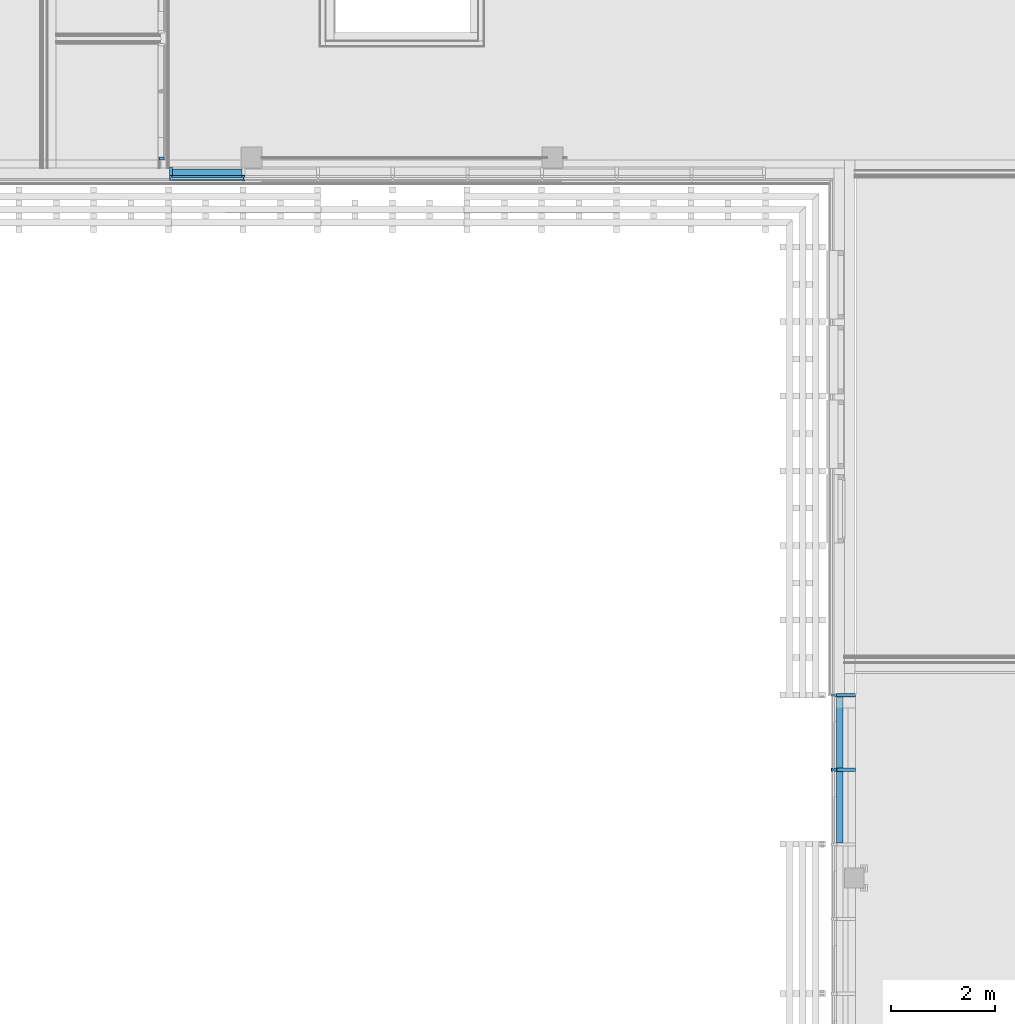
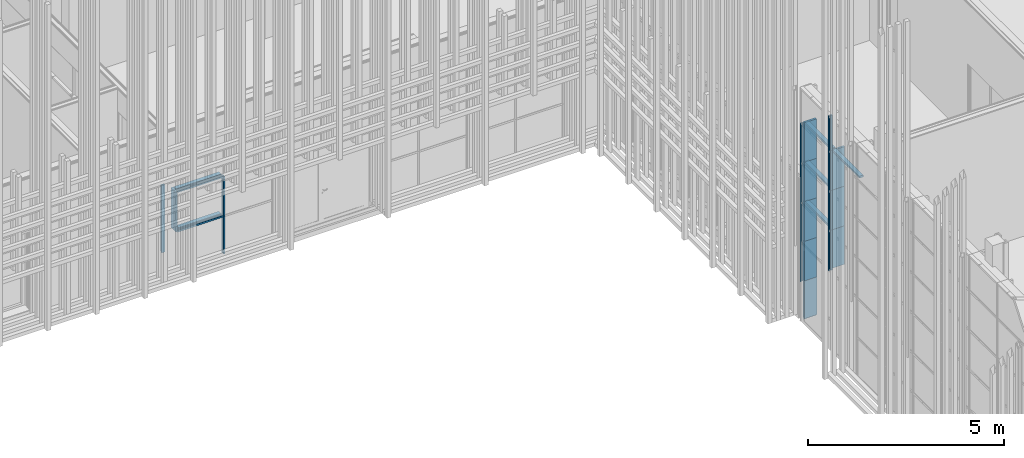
# One storey, part 24 of 260: 34 members, 5 elements without a shape of their own.
"""IFC2X3 building model written with IfcOpenShell, lengths in millimetres."""

from ifc_helpers import new_model, entity, si_unit, converted_unit, derived_unit, money_unit, direction, frame, origin_with_axes, place, context, subcontext, project, spatial, faceted_brep, source, transform, mapped, material, type_object, element, aggregate, save


model = new_model("IFC2X3")

# Units and contexts
model_context = context("Model", 3, precision=0.01, world=origin_with_axes(), true_north=direction((0.0, 1.0)))
body_context = subcontext(model_context, "Body", "Model", "MODEL_VIEW")
ifc_project = project(units=[si_unit("LENGTHUNIT", "METRE", prefix="MILLI"), si_unit("AREAUNIT", "SQUARE_METRE"), si_unit("VOLUMEUNIT", "CUBIC_METRE"), converted_unit("PLANEANGLEUNIT", "DEGREE", entity("IfcPlaneAngleMeasure", 0.0174532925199), si_unit("PLANEANGLEUNIT", "RADIAN"), dimensions=[0, 0, 0, 0, 0, 0, 0]), money_unit("EUR"), converted_unit("TIMEUNIT", "Year", entity("IfcTimeMeasure", 31556926.0), si_unit("TIMEUNIT", "SECOND"), dimensions=[0, 0, 1, 0, 0, 0, 0]), si_unit("MASSUNIT", "GRAM", prefix="KILO"), si_unit("THERMODYNAMICTEMPERATUREUNIT", "DEGREE_CELSIUS"), si_unit("LUMINOUSINTENSITYUNIT", "LUMEN"), si_unit("ENERGYUNIT", "JOULE", prefix="MEGA"), derived_unit("THERMALCONDUCTANCEUNIT", [(si_unit("POWERUNIT", "WATT"), 1), (si_unit("LENGTHUNIT", "METRE"), -1), (si_unit("THERMODYNAMICTEMPERATUREUNIT", "KELVIN"), -1)]), derived_unit("SPECIFICHEATCAPACITYUNIT", [(si_unit("ENERGYUNIT", "JOULE"), 1), (si_unit("MASSUNIT", "GRAM", prefix="KILO"), -1), (si_unit("THERMODYNAMICTEMPERATUREUNIT", "KELVIN"), -1)]), derived_unit("MASSDENSITYUNIT", [(si_unit("MASSUNIT", "GRAM", prefix="KILO"), 1), (si_unit("VOLUMEUNIT", "CUBIC_METRE"), -1)])], contexts=[model_context])

# Site, building, storey
site_placement = place(None, origin_with_axes())
site = spatial("IfcSite", under=ifc_project, at=site_placement, Name="Kolde pst 67a", CompositionType="ELEMENT")
building_placement = place(site_placement, origin_with_axes())
building = spatial("IfcBuilding", under=site, at=building_placement, Name="Riigigümnaasium", CompositionType="ELEMENT")
storey_placement = place(building_placement, origin_with_axes())
storey = spatial("IfcBuildingStorey", under=building, at=storey_placement, Name="1. korrus", CompositionType="ELEMENT", Elevation=0.0)

# Curtain wall, members
curtain_wall_type = type_object("IfcCurtainWallType", Name="Curtain Wall Type", PredefinedType="NOTDEFINED")
curtain_wall_1_placement = place(storey_placement, frame((47829.9854655, 8727.77020058, -0.000749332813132), z_axis=(0.0, 0.0, 1.0), x_axis=(1.0, 0.0, 0.0)))
curtain_wall_1 = element("IfcCurtainWall", 1, at=curtain_wall_1_placement, inside=storey, type_object=curtain_wall_type, Name="KLAASFASSAAD")
ifc_material_1 = material(Name="_METALL - alumiinium")
member_type_1 = type_object("IfcMemberType", Name="Mullion Frame 50 x 100", PredefinedType="MEMBER")
shared_shape_1 = source(origin_with_axes(), body_context, "Body", "Brep", [
    faceted_brep([(5.0, -16.5, 1230.0), (5.0, 16.5, 1230.0), (25.0, 16.5, 1230.0), (25.0, 40.0, 1230.0), (-25.0, 40.0, 1230.0), (-25.0, 16.5, 1230.0), (-5.0, 16.5, 1230.0), (-5.0, -16.5, 1230.0), (-25.0, -16.5, 1230.0), (-25.0, -60.0, 1230.0), (25.0, -60.0, 1230.0), (25.0, -16.5, 1230.0), (5.0, -16.5, 0.0), (5.0, 16.5, 0.0), (25.0, 16.5, 0.0), (25.0, 40.0, 0.0), (-25.0, 40.0, 0.0), (-25.0, 16.5, 0.0), (-5.0, 16.5, 0.0), (-5.0, -16.5, 0.0), (-25.0, -16.5, 0.0), (-25.0, -60.0, 0.0), (25.0, -60.0, 0.0), (25.0, -16.5, 0.0)], [[[0, 1, 2, 3, 4, 5, 6, 7, 8, 9, 10, 11]], [[0, 12, 13, 1]], [[1, 13, 14, 2]], [[14, 15, 3, 2]], [[3, 15, 16, 4]], [[17, 5, 4, 16]], [[5, 17, 18, 6]], [[7, 6, 18, 19]], [[8, 7, 19, 20]], [[8, 20, 21, 9]], [[9, 21, 22, 10]], [[11, 10, 22, 23]], [[11, 23, 12, 0]], [[13, 12, 23, 22, 21, 20, 19, 18, 17, 16, 15, 14]]]),
])
member_1_placement = place(curtain_wall_1_placement, frame((-23999.8871451, 27787.2742207, 4920.00074933), z_axis=(0.0, -4.39957086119e-09, 1.0), x_axis=(-7.6476848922e-06, -0.999999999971, -4.39957086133e-09)))
member_1 = element("IfcMember", 2, at=member_1_placement, type_object=member_type_1, material=ifc_material_1, Name="RF RAAM VERT-624", ObjectType="MEMBER", context=body_context, shape_type="MappedRepresentation", body=[
    mapped(shared_shape_1, transform((0.0, 0.0, 0.0), x_axis=(-1.0, 0.0, -4.39957086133e-09), y_axis=(0.0, -1.0, 0.0), z_axis=(-4.39957086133e-09, 0.0, 1.0))),
])
member_2_placement = place(curtain_wall_1_placement, frame((-23999.8871451, 27787.2742207, 3690.00074933), z_axis=(0.0, 0.0, 1.0), x_axis=(-7.6476848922e-06, -0.999999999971, 0.0)))
member_2 = element("IfcMember", 3, at=member_2_placement, type_object=member_type_1, material=ifc_material_1, Name="RF RAAM VERT-625", ObjectType="MEMBER", context=body_context, shape_type="MappedRepresentation", body=[
    mapped(shared_shape_1, transform((0.0, 0.0, 0.0), x_axis=(-1.0, 0.0, 0.0), y_axis=(0.0, -1.0, 0.0), z_axis=(0.0, 0.0, 1.0))),
])
shared_shape_2 = source(origin_with_axes(), body_context, "Body", "Brep", [
    faceted_brep([(5.0, -16.5, 1230.0), (5.0, 16.5, 1230.0), (25.0, 16.5, 1230.0), (25.0, 40.0, 1230.0), (-25.0, 40.0, 1230.0), (-25.0, 16.5, 1230.0), (-5.0, 16.5, 1230.0), (-5.0, -16.5, 1230.0), (-25.0, -16.5, 1230.0), (-25.0, -60.0, 1230.0), (25.0, -60.0, 1230.0), (25.0, -16.5, 1230.0), (5.0, -16.5, -25.0), (5.0, 16.5, -25.0), (25.0, 16.5, -25.0), (25.0, 40.0, -25.0), (-25.0, 40.0, -25.0), (-25.0, 16.5, -25.0), (-5.0, 16.5, -25.0), (-5.0, -16.5, -25.0), (-25.0, -16.5, -25.0), (-25.0, -60.0, -25.0), (25.0, -60.0, -25.0), (25.0, -16.5, -25.0)], [[[0, 1, 2, 3, 4, 5, 6, 7, 8, 9, 10, 11]], [[0, 12, 13, 1]], [[1, 13, 14, 2]], [[14, 15, 3, 2]], [[3, 15, 16, 4]], [[17, 5, 4, 16]], [[5, 17, 18, 6]], [[7, 6, 18, 19]], [[8, 7, 19, 20]], [[8, 20, 21, 9]], [[9, 21, 22, 10]], [[11, 10, 22, 23]], [[11, 23, 12, 0]], [[13, 12, 23, 22, 21, 20, 19, 18, 17, 16, 15, 14]]]),
])
member_3_placement = place(curtain_wall_1_placement, frame((-23999.8871451, 27787.2742207, 2460.00074933), z_axis=(0.0, 0.0, 1.0), x_axis=(-7.6476848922e-06, -0.999999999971, 0.0)))
member_3 = element("IfcMember", 4, at=member_3_placement, type_object=member_type_1, material=ifc_material_1, Name="RF RAAM VERT-626", ObjectType="MEMBER", context=body_context, shape_type="MappedRepresentation", body=[
    mapped(shared_shape_2, transform((0.0, 0.0, 0.0), x_axis=(-1.0, 0.0, 0.0), y_axis=(0.0, -1.0, 0.0), z_axis=(0.0, 0.0, 1.0))),
])
member_type_2 = type_object("IfcMemberType", Name="Boundary Frame 50 x 100", PredefinedType="MEMBER")
shared_shape_3 = source(origin_with_axes(), body_context, "Body", "Brep", [
    faceted_brep([(-30.0, -16.5, 1230.0), (-50.0, -16.5, 1230.0), (-50.0, -60.0, 1230.0), (0.0, -60.0, 1230.0), (0.0, 40.0, 1230.0), (-50.0, 40.0, 1230.0), (-50.0, 16.5, 1230.0), (-30.0, 16.5, 1230.0), (-30.0, -16.5, 0.0), (-50.0, -16.5, 0.0), (-50.0, -60.0, 0.0), (0.0, -60.0, 0.0), (0.0, 40.0, 0.0), (-50.0, 40.0, 0.0), (-50.0, 16.5, 0.0), (-30.0, 16.5, 0.0)], [[[0, 1, 2, 3, 4, 5, 6, 7]], [[0, 8, 9, 1]], [[9, 10, 2, 1]], [[10, 11, 3, 2]], [[11, 12, 4, 3]], [[12, 13, 5, 4]], [[6, 5, 13, 14]], [[14, 15, 7, 6]], [[7, 15, 8, 0]], [[8, 15, 14, 13, 12, 11, 10, 9]]]),
])
member_4_placement = place(curtain_wall_1_placement, frame((-23999.8760143, 29242.7279165, 4920.00074933), z_axis=(0.0, 0.0, 1.0), x_axis=(-7.64768489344e-06, -0.999999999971, 0.0)))
member_4 = element("IfcMember", 5, at=member_4_placement, type_object=member_type_2, material=ifc_material_1, Name="RF RAAM SERV-650", ObjectType="MEMBER", context=body_context, shape_type="MappedRepresentation", body=[
    mapped(shared_shape_3, transform((0.0, 0.0, 0.0), x_axis=(-1.0, 0.0, 0.0), y_axis=(0.0, -1.0, 0.0), z_axis=(0.0, 0.0, 1.0))),
])
member_5_placement = place(curtain_wall_1_placement, frame((-23999.8760143, 29242.7279165, 3690.00074933), z_axis=(0.0, 0.0, 1.0), x_axis=(-7.64768489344e-06, -0.999999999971, 0.0)))
member_5 = element("IfcMember", 6, at=member_5_placement, type_object=member_type_2, material=ifc_material_1, Name="RF RAAM SERV-649", ObjectType="MEMBER", context=body_context, shape_type="MappedRepresentation", body=[
    mapped(shared_shape_3, transform((0.0, 0.0, 0.0), x_axis=(-1.0, 0.0, 0.0), y_axis=(0.0, -1.0, 0.0), z_axis=(0.0, 0.0, 1.0))),
])
member_6_placement = place(curtain_wall_1_placement, frame((-23999.8760143, 29242.7279165, 2460.00074933), z_axis=(0.0, 0.0, 1.0), x_axis=(-7.64768489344e-06, -0.999999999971, 0.0)))
member_6 = element("IfcMember", 7, at=member_6_placement, type_object=member_type_2, material=ifc_material_1, Name="RF RAAM SERV-648", ObjectType="MEMBER", context=body_context, shape_type="MappedRepresentation", body=[
    mapped(shared_shape_3, transform((0.0, 0.0, 0.0), x_axis=(-1.0, 0.0, 0.0), y_axis=(0.0, -1.0, 0.0), z_axis=(0.0, 0.0, 1.0))),
])
member_7_placement = place(curtain_wall_1_placement, frame((-23999.8760143, 29242.7279165, 1230.00074933), z_axis=(0.0, 0.0, 1.0), x_axis=(-7.64768489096e-06, -0.999999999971, 0.0)))
member_7 = element("IfcMember", 8, at=member_7_placement, type_object=member_type_2, material=ifc_material_1, Name="RF RAAM SERV-647", ObjectType="MEMBER", context=body_context, shape_type="MappedRepresentation", body=[
    mapped(shared_shape_3, transform((0.0, 0.0, 0.0), x_axis=(-1.0, 0.0, 0.0), y_axis=(0.0, -1.0, 0.0), z_axis=(0.0, 0.0, 1.0))),
])
shared_shape_4 = source(origin_with_axes(), body_context, "Body", "Brep", [
    faceted_brep([(5.0, -16.5, 1099.99900713), (5.0, 16.5, 1099.99900713), (25.0, 16.5, 1099.99900713), (25.0, 40.0, 1099.99900713), (-25.0, 40.0, 1099.99900713), (-25.0, 16.5, 1099.99900713), (-5.0, 16.5, 1099.99900713), (-5.0, -16.5, 1099.99900713), (-25.0, -16.5, 1099.99900713), (-25.0, -60.0, 1099.99900713), (25.0, -60.0, 1099.99900713), (25.0, -16.5, 1099.99900713), (5.0, -16.5, -4.55870452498e-07), (5.0, 16.5, -4.55870452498e-07), (25.0, 16.5, -4.55870452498e-07), (25.0, 40.0, -4.55870452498e-07), (-25.0, 40.0, -4.55870452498e-07), (-25.0, 16.5, -4.55870452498e-07), (-5.0, 16.5, -4.55870452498e-07), (-5.0, -16.5, -4.55870452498e-07), (-25.0, -16.5, -4.55870452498e-07), (-25.0, -60.0, -4.55870452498e-07), (25.0, -60.0, -4.55870452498e-07), (25.0, -16.5, -4.55870452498e-07)], [[[0, 1, 2, 3, 4, 5, 6, 7, 8, 9, 10, 11]], [[0, 12, 13, 1]], [[1, 13, 14, 2]], [[14, 15, 3, 2]], [[3, 15, 16, 4]], [[17, 5, 4, 16]], [[5, 17, 18, 6]], [[7, 6, 18, 19]], [[8, 7, 19, 20]], [[8, 20, 21, 9]], [[9, 21, 22, 10]], [[11, 10, 22, 23]], [[11, 23, 12, 0]], [[13, 12, 23, 22, 21, 20, 19, 18, 17, 16, 15, 14]]]),
])
member_8_placement = place(curtain_wall_1_placement, frame((-23999.8871451, 27787.2742153, 6150.00074933), z_axis=(0.0, 0.0, 1.0), x_axis=(-7.6476848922e-06, -0.999999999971, 0.0)))
member_8 = element("IfcMember", 9, at=member_8_placement, type_object=member_type_1, material=ifc_material_1, Name="RF RAAM VERT-117", ObjectType="MEMBER", context=body_context, shape_type="MappedRepresentation", body=[
    mapped(shared_shape_4, transform((0.0, 0.0, 0.0), x_axis=(-1.0, 0.0, 0.0), y_axis=(0.0, -1.0, 0.0), z_axis=(0.0, 0.0, 1.0))),
])
aggregate(curtain_wall_1, [member_1, member_2, member_3, member_8, member_4, member_5, member_6, member_7])

curtain_wall_2_placement = place(storey_placement, frame((20393.1746439, 47839.7660528, -0.000116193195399), z_axis=(0.0, 0.0, 1.0), x_axis=(1.0, 0.0, 0.0)))
curtain_wall_2 = element("IfcCurtainWall", 10, at=curtain_wall_2_placement, inside=storey, type_object=curtain_wall_type, Name="KLAASFASSAAD")
shared_shape_5 = source(origin_with_axes(), body_context, "Body", "Brep", [
    faceted_brep([(5.0, -24.0, 1230.00011619), (5.0, 24.0, 1230.00011619), (25.0, 24.0, 1230.00011619), (25.0, 40.0, 1230.00011619), (-25.0, 40.0, 1230.00011619), (-25.0, 24.0, 1230.00011619), (-5.0, 24.0, 1230.00011619), (-5.0, -24.0, 1230.00011619), (-25.0, -24.0, 1230.00011619), (-25.0, -60.0, 1230.00011619), (25.0, -60.0, 1230.00011619), (25.0, -24.0, 1230.00011619), (5.0, -24.0, 50.0), (5.0, 24.0, 50.0), (25.0, 24.0, 50.0), (25.0, 40.0, 50.0), (-25.0, 40.0, 50.0), (-25.0, 24.0, 50.0), (-5.0, 24.0, 50.0), (-5.0, -24.0, 50.0), (-25.0, -24.0, 50.0), (-25.0, -60.0, 50.0), (25.0, -60.0, 50.0), (25.0, -24.0, 50.0)], [[[0, 1, 2, 3, 4, 5, 6, 7, 8, 9, 10, 11]], [[0, 12, 13, 1]], [[1, 13, 14, 2]], [[14, 15, 3, 2]], [[4, 3, 15, 16]], [[17, 5, 4, 16]], [[5, 17, 18, 6]], [[7, 6, 18, 19]], [[8, 7, 19, 20]], [[8, 20, 21, 9]], [[10, 9, 21, 22]], [[11, 10, 22, 23]], [[11, 23, 12, 0]], [[13, 12, 23, 22, 21, 20, 19, 18, 17, 16, 15, 14]]]),
])
member_9_placement = place(curtain_wall_2_placement, frame((-7865.0, 0.0, 0.0), z_axis=(0.0, 0.0, 1.0), x_axis=(1.0, 0.0, 0.0)))
member_9 = element("IfcMember", 11, at=member_9_placement, type_object=member_type_1, material=ifc_material_1, Name="RF RAAM VERT-351", ObjectType="MEMBER", context=body_context, shape_type="MappedRepresentation", body=[
    mapped(shared_shape_5, transform((0.0, 0.0, 0.0), x_axis=(-1.0, 0.0, 0.0), y_axis=(0.0, -1.0, 0.0), z_axis=(0.0, 0.0, 1.0))),
])
shared_shape_6 = source(origin_with_axes(), body_context, "Body", "Brep", [
    faceted_brep([(5.0, -24.0, 1230.0), (5.0, 24.0, 1230.0), (25.0, 24.0, 1230.0), (25.0, 40.0, 1230.0), (-25.0, 40.0, 1230.0), (-25.0, 24.0, 1230.0), (-5.0, 24.0, 1230.0), (-5.0, -24.0, 1230.0), (-25.0, -24.0, 1230.0), (-25.0, -60.0, 1230.0), (25.0, -60.0, 1230.0), (25.0, -24.0, 1230.0), (5.0, -24.0, 0.0), (5.0, 24.0, 0.0), (25.0, 24.0, 0.0), (25.0, 40.0, 0.0), (-25.0, 40.0, 0.0), (-25.0, 24.0, 0.0), (-5.0, 24.0, 0.0), (-5.0, -24.0, 0.0), (-25.0, -24.0, 0.0), (-25.0, -60.0, 0.0), (25.0, -60.0, 0.0), (25.0, -24.0, 0.0)], [[[0, 1, 2, 3, 4, 5, 6, 7, 8, 9, 10, 11]], [[0, 12, 13, 1]], [[1, 13, 14, 2]], [[14, 15, 3, 2]], [[3, 15, 16, 4]], [[17, 5, 4, 16]], [[5, 17, 18, 6]], [[7, 6, 18, 19]], [[8, 7, 19, 20]], [[8, 20, 21, 9]], [[9, 21, 22, 10]], [[11, 10, 22, 23]], [[11, 23, 12, 0]], [[13, 12, 23, 22, 21, 20, 19, 18, 17, 16, 15, 14]]]),
])
member_10_placement = place(curtain_wall_2_placement, frame((-7865.0, 0.0, 1230.00011619), z_axis=(0.0, 0.0, 1.0), x_axis=(1.0, 0.0, 0.0)))
member_10 = element("IfcMember", 12, at=member_10_placement, type_object=member_type_1, material=ifc_material_1, Name="RF RAAM VERT-359", ObjectType="MEMBER", context=body_context, shape_type="MappedRepresentation", body=[
    mapped(shared_shape_6, transform((0.0, 0.0, 0.0), x_axis=(-1.0, 0.0, 0.0), y_axis=(0.0, -1.0, 0.0), z_axis=(0.0, 0.0, 1.0))),
])
shared_shape_7 = source(origin_with_axes(), body_context, "Body", "Brep", [
    faceted_brep([(-30.0, -24.0, 1230.0), (-50.0, -24.0, 1230.0), (-50.0, -60.0, 1230.0), (0.0, -60.0, 1230.0), (0.0, 40.0, 1230.0), (-50.0, 40.0, 1230.0), (-50.0, 24.0, 1230.0), (-30.0, 24.0, 1230.0), (-30.0, -24.0, -2.17989071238e-06), (-50.0, -24.0, -2.17989060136e-06), (-50.0, -60.0, -2.17989060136e-06), (0.0, -60.0, -2.17989060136e-06), (0.0, 40.0, -2.17989060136e-06), (-50.0, 40.0, -2.17989060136e-06), (-50.0, 24.0, -2.17989060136e-06), (-30.0, 24.0, -2.17989071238e-06)], [[[0, 1, 2, 3, 4, 5, 6, 7]], [[0, 8, 9, 1]], [[9, 10, 2, 1]], [[10, 11, 3, 2]], [[11, 12, 4, 3]], [[12, 13, 5, 4]], [[6, 5, 13, 14]], [[14, 15, 7, 6]], [[7, 15, 8, 0]], [[8, 15, 14, 13, 12, 11, 10, 9]]]),
])
member_11_placement = place(curtain_wall_2_placement, frame((-9284.79434148, 0.0, 1230.00011619), z_axis=(0.0, 0.0, 1.0), x_axis=(1.0, 0.0, 0.0)))
member_11 = element("IfcMember", 13, at=member_11_placement, type_object=member_type_2, material=ifc_material_1, Name="RF RAAM SERV-710", ObjectType="MEMBER", context=body_context, shape_type="MappedRepresentation", body=[
    mapped(shared_shape_7, transform((0.0, 0.0, 0.0), x_axis=(-1.0, 0.0, 0.0), y_axis=(0.0, -1.0, 0.0), z_axis=(0.0, 0.0, 1.0))),
])
member_type_3 = type_object("IfcMemberType", Name="Transom Frame 50 x 100", PredefinedType="MEMBER")
shared_shape_8 = source(origin_with_axes(), body_context, "Body", "Brep", [
    faceted_brep([(5.0, -24.0, 1369.79434148), (5.0, 24.0, 1369.79434148), (25.0, 24.0, 1369.79434148), (25.0, 40.0, 1369.79434148), (-25.0, 40.0, 1369.79434148), (-25.0, 24.0, 1369.79434148), (-5.0, 24.0, 1369.79434148), (-5.0, -24.0, 1369.79434148), (-25.0, -24.0, 1369.79434148), (-25.0, -60.0, 1369.79434148), (25.0, -60.0, 1369.79434148), (25.0, -24.0, 1369.79434148), (5.0, -24.0, 25.0), (5.0, 24.0, 25.0), (25.0, 24.0, 25.0), (25.0, 40.0, 25.0), (-25.0, 40.0, 25.0), (-25.0, 24.0, 25.0), (-5.0, 24.0, 25.0), (-5.0, -24.0, 25.0), (-25.0, -24.0, 25.0), (-25.0, -60.0, 25.0), (25.0, -60.0, 25.0), (25.0, -24.0, 25.0)], [[[0, 1, 2, 3, 4, 5, 6, 7, 8, 9, 10, 11]], [[0, 12, 13, 1]], [[1, 13, 14, 2]], [[14, 15, 3, 2]], [[4, 3, 15, 16]], [[17, 5, 4, 16]], [[5, 17, 18, 6]], [[7, 6, 18, 19]], [[8, 7, 19, 20]], [[8, 20, 21, 9]], [[10, 9, 21, 22]], [[11, 10, 22, 23]], [[11, 23, 12, 0]], [[13, 12, 23, 22, 21, 20, 19, 18, 17, 16, 15, 14]]]),
])
member_12_placement = place(curtain_wall_2_placement, frame((-7865.0, 0.0, 2460.00011619), z_axis=(-1.0, 0.0, 0.0), x_axis=(0.0, 0.0, 1.0)))
member_12 = element("IfcMember", 14, at=member_12_placement, type_object=member_type_3, material=ifc_material_1, Name="RF RAAM HOR-329", ObjectType="MEMBER", context=body_context, shape_type="MappedRepresentation", body=[
    mapped(shared_shape_8, transform((0.0, 0.0, 0.0), x_axis=(-1.0, 0.0, 0.0), y_axis=(0.0, -1.0, 0.0), z_axis=(0.0, 0.0, 1.0))),
])
member_13_placement = place(curtain_wall_2_placement, frame((-7865.0, 0.0, 1230.00011619), z_axis=(-1.0, 0.0, 0.0), x_axis=(0.0, 0.0, 1.0)))
member_13 = element("IfcMember", 15, at=member_13_placement, type_object=member_type_3, material=ifc_material_1, Name="RF RAAM HOR-330", ObjectType="MEMBER", context=body_context, shape_type="MappedRepresentation", body=[
    mapped(shared_shape_8, transform((0.0, 0.0, 0.0), x_axis=(-1.0, 0.0, 0.0), y_axis=(0.0, -1.0, 0.0), z_axis=(0.0, 0.0, 1.0))),
])
aggregate(curtain_wall_2, [member_9, member_10, member_12, member_11, member_13])

curtain_wall_3_placement = place(storey_placement, frame((23890.0026791, 27220.1832522, -0.000253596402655), z_axis=(0.0, 0.0, 1.0), x_axis=(1.0, 0.0, 0.0)))
curtain_wall_3 = element("IfcCurtainWall", 16, at=curtain_wall_3_placement, inside=storey, type_object=curtain_wall_type, Name="Klaasfassaadi puitkarkass")
ifc_material_2 = material(Name="_KANDETARIND - liimpuit vastavalt EK osale")
member_type_4 = type_object("IfcMemberType", Name="Transom Frame 60 x 120", PredefinedType="MEMBER")
shared_shape_9 = source(origin_with_axes(), body_context, "Body", "Brep", [
    faceted_brep([(-30.0, 0.0, 30.0), (-30.0, -120.0, 30.0), (-30.0, -120.0, 1400.0), (-30.0, 0.0, 1400.0), (30.0, 0.0, 30.0), (30.0, -120.0, 30.0), (30.0, -120.0, 1400.0), (30.0, 0.0, 1400.0)], [[[0, 1, 2, 3]], [[1, 0, 4, 5]], [[1, 5, 6, 2]], [[2, 6, 7, 3]], [[4, 0, 3, 7]], [[5, 4, 7, 6]]]),
])
member_14_placement = place(curtain_wall_3_placement, frame((4.03153244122e-05, 7865.0, 6150.0002536), z_axis=(5.12591740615e-09, 1.0, 0.0), x_axis=(0.0, 0.0, 1.0)))
member_14 = element("IfcMember", 17, at=member_14_placement, type_object=member_type_4, material=ifc_material_2, Name="RF RAAM HOR-648", ObjectType="MEMBER", context=body_context, shape_type="MappedRepresentation", body=[
    mapped(shared_shape_9, transform((0.0, 0.0, 0.0), x_axis=(-1.0, 0.0, 0.0), y_axis=(0.0, -1.0, -5.12591728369e-09), z_axis=(0.0, -5.12591728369e-09, 1.0))),
])
member_15_placement = place(curtain_wall_3_placement, frame((4.7645386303e-05, 9295.0, 6150.0002536), z_axis=(5.12591492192e-09, 1.0, 0.0), x_axis=(0.0, 0.0, 1.0)))
member_15 = element("IfcMember", 18, at=member_15_placement, type_object=member_type_4, material=ifc_material_2, Name="RF RAAM HOR-783", ObjectType="MEMBER", context=body_context, shape_type="MappedRepresentation", body=[
    mapped(shared_shape_9, transform((0.0, 0.0, 0.0), x_axis=(-1.0, 0.0, 0.0), y_axis=(0.0, -1.0, -5.12591479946e-09), z_axis=(0.0, -5.12591479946e-09, 1.0))),
])
member_16_placement = place(curtain_wall_3_placement, frame((4.7645386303e-05, 9295.0, 4920.0002536), z_axis=(5.12591492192e-09, 1.0, 0.0), x_axis=(0.0, 0.0, 1.0)))
member_16 = element("IfcMember", 19, at=member_16_placement, type_object=member_type_4, material=ifc_material_2, Name="RF RAAM HOR-784", ObjectType="MEMBER", context=body_context, shape_type="MappedRepresentation", body=[
    mapped(shared_shape_9, transform((0.0, 0.0, 0.0), x_axis=(-1.0, 0.0, 0.0), y_axis=(0.0, -1.0, -5.12591479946e-09), z_axis=(0.0, -5.12591479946e-09, 1.0))),
])
member_17_placement = place(curtain_wall_3_placement, frame((4.7645386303e-05, 9295.0, 3690.0002536), z_axis=(5.12591492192e-09, 1.0, 0.0), x_axis=(0.0, 0.0, 1.0)))
member_17 = element("IfcMember", 20, at=member_17_placement, type_object=member_type_4, material=ifc_material_2, Name="RF RAAM HOR-835", ObjectType="MEMBER", context=body_context, shape_type="MappedRepresentation", body=[
    mapped(shared_shape_9, transform((0.0, 0.0, 0.0), x_axis=(-1.0, 0.0, 0.0), y_axis=(0.0, -1.0, -5.12591479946e-09), z_axis=(0.0, -5.12591479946e-09, 1.0))),
])

curtain_wall_4_placement = place(storey_placement, frame((20393.1747334, 47899.7660528, -0.000116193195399), z_axis=(0.0, 0.0, 1.0), x_axis=(1.0, 0.0, 0.0)))
curtain_wall_4 = element("IfcCurtainWall", 21, at=curtain_wall_4_placement, inside=storey, type_object=curtain_wall_type, Name="Klaasfassaadi puitkarkass")
member_type_5 = type_object("IfcMemberType", Name="Boundary Frame 60 x 160", PredefinedType="MEMBER")
shared_shape_10 = source(origin_with_axes(), body_context, "Body", "Brep", [
    faceted_brep([(-60.0, -160.0, -2.61586866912e-06), (-60.0, -160.0, 1230.0), (-60.0, 0.0, 1230.0), (-60.0, 0.0, -2.61586866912e-06), (0.0, -160.0, -2.61586866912e-06), (0.0, -160.0, 1230.0), (0.0, 0.0, 1230.0), (0.0, 0.0, -2.61586866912e-06)], [[[0, 1, 2, 3]], [[4, 5, 1, 0]], [[1, 5, 6, 2]], [[3, 2, 6, 7]], [[0, 3, 7, 4]], [[7, 6, 5, 4]]]),
])
member_18_placement = place(curtain_wall_4_placement, frame((-9284.79434148, 0.0, 1230.00011619), z_axis=(0.0, 0.0, 1.0), x_axis=(1.0, 0.0, 0.0)))
member_18 = element("IfcMember", 22, at=member_18_placement, type_object=member_type_5, material=ifc_material_2, Name="RF RAAM SERV-623", ObjectType="MEMBER", context=body_context, shape_type="MappedRepresentation", body=[
    mapped(shared_shape_10, transform((0.0, 0.0, 0.0), x_axis=(-1.0, 0.0, 0.0), y_axis=(0.0, -1.0, 0.0), z_axis=(0.0, 0.0, 1.0))),
])
shared_shape_11 = source(origin_with_axes(), body_context, "Body", "Brep", [
    faceted_brep([(-30.0, 0.0, 30.0), (-30.0, -120.0, 30.0), (-30.0, -120.0, 1359.79434148), (-30.0, 0.0, 1359.79434148), (30.0, 0.0, 30.0), (30.0, -120.0, 30.0), (30.0, -120.0, 1359.79434148), (30.0, 0.0, 1359.79434148)], [[[0, 1, 2, 3]], [[1, 0, 4, 5]], [[1, 5, 6, 2]], [[2, 6, 7, 3]], [[4, 0, 3, 7]], [[5, 4, 7, 6]]]),
])
member_19_placement = place(curtain_wall_4_placement, frame((-7865.0, 0.0, 2460.00011619), z_axis=(-1.0, 0.0, 0.0), x_axis=(0.0, 0.0, 1.0)))
member_19 = element("IfcMember", 23, at=member_19_placement, type_object=member_type_4, material=ifc_material_2, Name="RF RAAM HOR-329", ObjectType="MEMBER", context=body_context, shape_type="MappedRepresentation", body=[
    mapped(shared_shape_11, transform((0.0, 0.0, 0.0), x_axis=(-1.0, 0.0, 0.0), y_axis=(0.0, -1.0, 0.0), z_axis=(0.0, 0.0, 1.0))),
])
member_20_placement = place(curtain_wall_4_placement, frame((-7865.0, 0.0, 1230.00011619), z_axis=(-1.0, 0.0, 0.0), x_axis=(0.0, 0.0, 1.0)))
member_20 = element("IfcMember", 24, at=member_20_placement, type_object=member_type_4, material=ifc_material_2, Name="RF RAAM HOR-330", ObjectType="MEMBER", context=body_context, shape_type="MappedRepresentation", body=[
    mapped(shared_shape_11, transform((0.0, 0.0, 0.0), x_axis=(-1.0, 0.0, 0.0), y_axis=(0.0, -1.0, 0.0), z_axis=(0.0, 0.0, 1.0))),
])
aggregate(curtain_wall_4, [member_19, member_18, member_20])

# Member
member_type_6 = type_object("IfcMemberType", Name="Mullion Frame 60 x 360", PredefinedType="MEMBER")
shared_shape_12 = source(origin_with_axes(), body_context, "Body", "Brep", [
    faceted_brep([(-30.0, 0.0, 60.0), (-30.0, -360.0, 60.0), (-30.0, -360.0, 1230.0002536), (-30.0, 0.0, 1230.0002536), (30.0, 0.0, 60.0), (30.0, -360.0, 60.0), (30.0, -360.0, 1230.0002536), (30.0, 0.0, 1230.0002536)], [[[0, 1, 2, 3]], [[1, 0, 4, 5]], [[1, 5, 6, 2]], [[2, 6, 7, 3]], [[4, 0, 3, 7]], [[5, 4, 7, 6]]]),
])
member_21_placement = place(curtain_wall_3_placement, frame((5.49754446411e-05, 10724.9999999, 0.0), z_axis=(0.0, 0.0, 1.0), x_axis=(-5.12591492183e-09, -1.0, 0.0)))
member_21 = element("IfcMember", 25, at=member_21_placement, type_object=member_type_6, material=ifc_material_2, Name="RF RAAM VERT-489", ObjectType="MEMBER", context=body_context, shape_type="MappedRepresentation", body=[
    mapped(shared_shape_12, transform((0.0, 0.0, 0.0), x_axis=(-1.0, 0.0, 0.0), y_axis=(0.0, -1.0, 0.0), z_axis=(0.0, 0.0, 1.0))),
])

shared_shape_13 = source(origin_with_axes(), body_context, "Body", "Brep", [
    faceted_brep([(-30.0, -360.0, 0.0), (-30.0, -360.0, 1230.0), (-30.0, 0.0, 1230.0), (-30.0, 0.0, 0.0), (30.0, -360.0, 0.0), (30.0, -360.0, 1230.0), (30.0, 0.0, 1230.0), (30.0, 0.0, 0.0)], [[[0, 1, 2, 3]], [[4, 5, 1, 0]], [[1, 5, 6, 2]], [[3, 2, 6, 7]], [[0, 3, 7, 4]], [[7, 6, 5, 4]]]),
])
member_22_placement = place(curtain_wall_3_placement, frame((4.7645386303e-05, 9295.0, 3690.0002536), z_axis=(0.0, 0.0, 1.0), x_axis=(-5.12591616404e-09, -1.0, 0.0)))
member_22 = element("IfcMember", 26, at=member_22_placement, type_object=member_type_6, material=ifc_material_2, Name="RF RAAM VERT-837", ObjectType="MEMBER", context=body_context, shape_type="MappedRepresentation", body=[
    mapped(shared_shape_13, transform((0.0, 0.0, 0.0), x_axis=(-1.0, 0.0, 0.0), y_axis=(0.0, -1.0, 0.0), z_axis=(0.0, 0.0, 1.0))),
])

member_23_placement = place(curtain_wall_3_placement, frame((4.7645386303e-05, 9295.0, 4920.0002536), z_axis=(0.0, 0.0, 1.0), x_axis=(-5.12591616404e-09, -1.0, 0.0)))
member_23 = element("IfcMember", 27, at=member_23_placement, type_object=member_type_6, material=ifc_material_2, Name="RF RAAM VERT-837", ObjectType="MEMBER", context=body_context, shape_type="MappedRepresentation", body=[
    mapped(shared_shape_13, transform((0.0, 0.0, 0.0), x_axis=(-1.0, 0.0, 0.0), y_axis=(0.0, -1.0, 0.0), z_axis=(0.0, 0.0, 1.0))),
])

member_24_placement = place(curtain_wall_3_placement, frame((5.49754446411e-05, 10724.9999999, 1230.0002536), z_axis=(0.0, 0.0, 1.0), x_axis=(-5.12591492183e-09, -1.0, 0.0)))
member_24 = element("IfcMember", 28, at=member_24_placement, type_object=member_type_6, material=ifc_material_2, Name="RF RAAM VERT-490", ObjectType="MEMBER", context=body_context, shape_type="MappedRepresentation", body=[
    mapped(shared_shape_13, transform((0.0, 0.0, 0.0), x_axis=(-1.0, 0.0, 0.0), y_axis=(0.0, -1.0, 0.0), z_axis=(0.0, 0.0, 1.0))),
])

member_25_placement = place(curtain_wall_3_placement, frame((5.49754446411e-05, 10724.9999999, 2460.0002536), z_axis=(0.0, 0.0, 1.0), x_axis=(-5.12591492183e-09, -1.0, 0.0)))
member_25 = element("IfcMember", 29, at=member_25_placement, type_object=member_type_6, material=ifc_material_2, Name="RF RAAM VERT-491", ObjectType="MEMBER", context=body_context, shape_type="MappedRepresentation", body=[
    mapped(shared_shape_13, transform((0.0, 0.0, 0.0), x_axis=(-1.0, 0.0, 0.0), y_axis=(0.0, -1.0, 0.0), z_axis=(0.0, 0.0, 1.0))),
])

member_26_placement = place(curtain_wall_3_placement, frame((5.49754446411e-05, 10724.9999999, 3690.0002536), z_axis=(0.0, 0.0, 1.0), x_axis=(-5.12591492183e-09, -1.0, 0.0)))
member_26 = element("IfcMember", 30, at=member_26_placement, type_object=member_type_6, material=ifc_material_2, Name="RF RAAM VERT-492", ObjectType="MEMBER", context=body_context, shape_type="MappedRepresentation", body=[
    mapped(shared_shape_13, transform((0.0, 0.0, 0.0), x_axis=(-1.0, 0.0, 0.0), y_axis=(0.0, -1.0, 0.0), z_axis=(0.0, 0.0, 1.0))),
])

member_27_placement = place(curtain_wall_3_placement, frame((5.49754446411e-05, 10724.9999999, 4920.0002536), z_axis=(0.0, 0.0, 1.0), x_axis=(-5.12591492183e-09, -1.0, 0.0)))
member_27 = element("IfcMember", 31, at=member_27_placement, type_object=member_type_6, material=ifc_material_2, Name="RF RAAM VERT-493", ObjectType="MEMBER", context=body_context, shape_type="MappedRepresentation", body=[
    mapped(shared_shape_13, transform((0.0, 0.0, 0.0), x_axis=(-1.0, 0.0, 0.0), y_axis=(0.0, -1.0, 0.0), z_axis=(0.0, 0.0, 1.0))),
])

shared_shape_14 = source(origin_with_axes(), body_context, "Body", "Brep", [
    faceted_brep([(-30.0, 0.0, 30.0), (-30.0, -360.0, 30.0), (-30.0, -360.0, 1230.0), (-30.0, 0.0, 1230.0), (30.0, 0.0, 30.0), (30.0, -360.0, 30.0), (30.0, -360.0, 1230.0), (30.0, 0.0, 1230.0)], [[[0, 1, 2, 3]], [[1, 0, 4, 5]], [[1, 5, 6, 2]], [[2, 6, 7, 3]], [[4, 0, 3, 7]], [[5, 4, 7, 6]]]),
])
member_28_placement = place(curtain_wall_3_placement, frame((4.7645386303e-05, 9295.0, 2460.0002536), z_axis=(0.0, 0.0, 1.0), x_axis=(-5.12591616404e-09, -1.0, 0.0)))
member_28 = element("IfcMember", 32, at=member_28_placement, type_object=member_type_6, material=ifc_material_2, Name="RF RAAM VERT-837", ObjectType="MEMBER", context=body_context, shape_type="MappedRepresentation", body=[
    mapped(shared_shape_14, transform((0.0, 0.0, 0.0), x_axis=(-1.0, 0.0, 0.0), y_axis=(0.0, -1.0, 0.0), z_axis=(0.0, 0.0, 1.0))),
])

member_type_7 = type_object("IfcMemberType", Name="Boundary Frame 60 x 360", PredefinedType="MEMBER")
shared_shape_15 = source(origin_with_axes(), body_context, "Body", "Brep", [
    faceted_brep([(-60.0, -360.0, 0.0), (-60.0, -360.0, 1230.0), (-60.0, 0.0, 1230.0), (-60.0, 0.0, 0.0), (0.0, -360.0, 0.0), (0.0, -360.0, 1230.0), (0.0, 0.0, 1230.0), (0.0, 0.0, 0.0)], [[[0, 1, 2, 3]], [[4, 5, 1, 0]], [[1, 5, 6, 2]], [[3, 2, 6, 7]], [[0, 3, 7, 4]], [[7, 6, 5, 4]]]),
])
member_29_placement = place(curtain_wall_3_placement, frame((5.50898207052e-05, 10747.3132407, 4920.0002536), z_axis=(0.0, 0.0, 1.0), x_axis=(-5.12591492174e-09, -1.0, 0.0)))
member_29 = element("IfcMember", 33, at=member_29_placement, type_object=member_type_7, material=ifc_material_2, Name="RF RAAM SERV-724", ObjectType="MEMBER", context=body_context, shape_type="MappedRepresentation", body=[
    mapped(shared_shape_15, transform((0.0, 0.0, 0.0), x_axis=(-1.0, 0.0, 0.0), y_axis=(0.0, -1.0, 0.0), z_axis=(0.0, 0.0, 1.0))),
])

member_30_placement = place(curtain_wall_3_placement, frame((5.50898207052e-05, 10747.3132407, 3690.0002536), z_axis=(0.0, 0.0, 1.0), x_axis=(-5.12591492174e-09, -1.0, 0.0)))
member_30 = element("IfcMember", 34, at=member_30_placement, type_object=member_type_7, material=ifc_material_2, Name="RF RAAM SERV-723", ObjectType="MEMBER", context=body_context, shape_type="MappedRepresentation", body=[
    mapped(shared_shape_15, transform((0.0, 0.0, 0.0), x_axis=(-1.0, 0.0, 0.0), y_axis=(0.0, -1.0, 0.0), z_axis=(0.0, 0.0, 1.0))),
])

member_31_placement = place(curtain_wall_3_placement, frame((5.50898207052e-05, 10747.3132407, 2460.0002536), z_axis=(0.0, 0.0, 1.0), x_axis=(-5.12591492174e-09, -1.0, 0.0)))
member_31 = element("IfcMember", 35, at=member_31_placement, type_object=member_type_7, material=ifc_material_2, Name="RF RAAM SERV-722", ObjectType="MEMBER", context=body_context, shape_type="MappedRepresentation", body=[
    mapped(shared_shape_15, transform((0.0, 0.0, 0.0), x_axis=(-1.0, 0.0, 0.0), y_axis=(0.0, -1.0, 0.0), z_axis=(0.0, 0.0, 1.0))),
])

member_32_placement = place(curtain_wall_3_placement, frame((5.50898207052e-05, 10747.3132407, 1230.0002536), z_axis=(0.0, 0.0, 1.0), x_axis=(-5.12591492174e-09, -1.0, 0.0)))
member_32 = element("IfcMember", 36, at=member_32_placement, type_object=member_type_7, material=ifc_material_2, Name="RF RAAM SERV-721", ObjectType="MEMBER", context=body_context, shape_type="MappedRepresentation", body=[
    mapped(shared_shape_15, transform((0.0, 0.0, 0.0), x_axis=(-1.0, 0.0, 0.0), y_axis=(0.0, -1.0, 0.0), z_axis=(0.0, 0.0, 1.0))),
])

shared_shape_16 = source(origin_with_axes(), body_context, "Body", "Brep", [
    faceted_brep([(-60.0, 0.0, 60.0), (-60.0, -360.0, 60.0), (-60.0, -360.0, 1230.0002536), (-60.0, 0.0, 1230.0002536), (0.0, 0.0, 0.0), (0.0, -360.0, 0.0), (0.0, -360.0, 1230.0002536), (0.0, 0.0, 1230.0002536)], [[[0, 1, 2, 3]], [[1, 0, 4, 5]], [[1, 5, 6, 2]], [[2, 6, 7, 3]], [[4, 0, 3, 7]], [[5, 4, 7, 6]]]),
])
member_33_placement = place(curtain_wall_3_placement, frame((5.50898207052e-05, 10747.3132407, 0.0), z_axis=(0.0, 0.0, 1.0), x_axis=(-5.12591492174e-09, -1.0, 0.0)))
member_33 = element("IfcMember", 37, at=member_33_placement, type_object=member_type_7, material=ifc_material_2, Name="RF RAAM SERV-720", ObjectType="MEMBER", context=body_context, shape_type="MappedRepresentation", body=[
    mapped(shared_shape_16, transform((0.0, 0.0, 0.0), x_axis=(-1.0, 0.0, 0.0), y_axis=(0.0, -1.0, 0.0), z_axis=(0.0, 0.0, 1.0))),
])

aggregate(curtain_wall_3, [member_28, member_22, member_23, member_14, member_15, member_16, member_17, member_21, member_24, member_25, member_26, member_27, member_29, member_30, member_31, member_32, member_33])

# Curtain wall, member
curtain_wall_5_placement = place(storey_placement, frame((11015.4348778, 48773.3132292, 399.999999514), z_axis=(0.0, 0.0, 1.0), x_axis=(1.0, 0.0, 0.0)))
curtain_wall_5 = element("IfcCurtainWall", 38, at=curtain_wall_5_placement, inside=storey, type_object=curtain_wall_type, Name="KLAASSEIN")
ifc_material_3 = material(Name="_GENEERILINE MATERJAL")
shared_shape_17 = source(origin_with_axes(), body_context, "Body", "Brep", [
    faceted_brep([(50.0, -10.0, -2.5916668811e-07), (50.0, -10.0, 2050.00002621), (50.0, -100.0, 2050.00002621), (50.0, -100.0, -2.5916668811e-07), (25.0, -10.0, 2075.00002621), (25.0, -10.0, -2.59166466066e-07), (25.0, 0.0, 2075.00002621), (0.0, 0.0, 2100.00002621), (0.0, -100.0, 2100.00002621), (0.0, -100.0, -2.5916668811e-07), (0.0, 0.0, -2.5916668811e-07), (25.0, 0.0, -2.5916668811e-07)], [[[0, 1, 2, 3]], [[4, 1, 0, 5]], [[4, 6, 7, 8, 2, 1]], [[3, 2, 8, 9]], [[5, 0, 3, 9, 10, 11]], [[11, 6, 4, 5]], [[6, 11, 10, 7]], [[9, 8, 7, 10]]]),
])
member_34_placement = place(curtain_wall_5_placement, frame((0.00625816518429, -573.332389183, 2100.00002621), z_axis=(0.0, 0.0, -1.0), x_axis=(-1.09154223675e-05, 0.99999999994, 0.0)))
member_34 = element("IfcMember", 39, at=member_34_placement, type_object=member_type_2, material=ifc_material_3, Name="RF RAAM SERV-343", ObjectType="MEMBER", context=body_context, shape_type="MappedRepresentation", body=[
    mapped(shared_shape_17, transform((0.0, 0.0, 0.0))),
])
aggregate(curtain_wall_5, [member_34])

save(model, "model.ifc")
